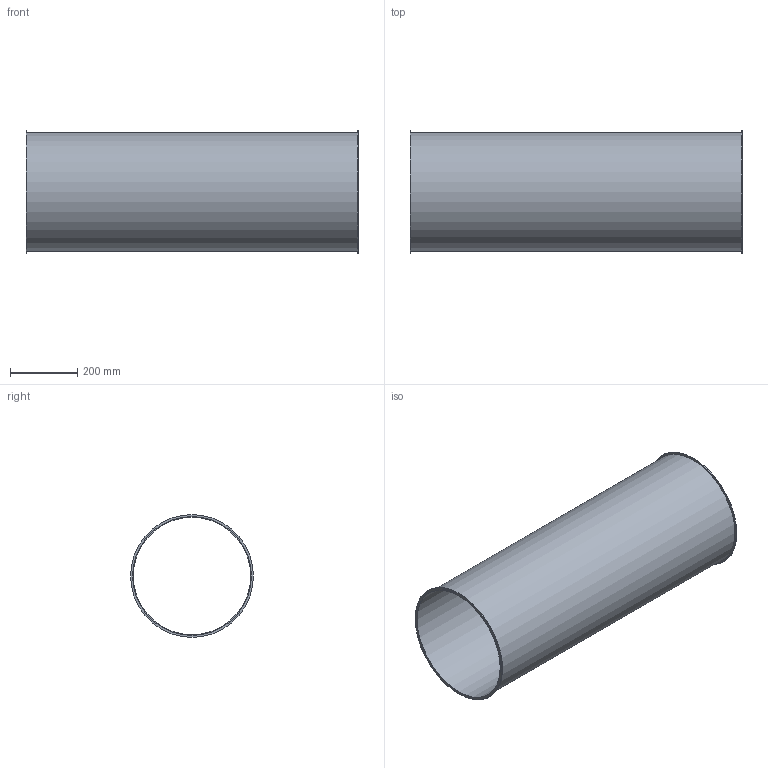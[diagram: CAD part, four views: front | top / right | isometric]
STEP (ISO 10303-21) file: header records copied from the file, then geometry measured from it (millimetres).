
FILE_DESCRIPTION((''),'2;1');
FILE_NAME('U:\Wolfgang\Marcel-3D\fertig\Kapitel 1\3521002.stp','2010-05-31T11:41:42',('TK2'),(''),'Autodesk Inventor 2010','Autodesk Inventor 2010','');
FILE_SCHEMA(('AUTOMOTIVE_DESIGN { 1 0 10303 214 1 1 1 1 }'));
Length unit declared in the file: millimetre
Products named in the file (1): 3521002
Bounding box: 986 x 365 x 365 mm (x, y, z)
Volume: 2201590.4 mm3; surface area: 2206152 mm2
Topology: 1 solids, 1 shells, 8 faces, 12 edges, 8 vertices
Faces by surface type: cylinder 4, plane 4
Full cylindrical faces by diameter (mm): 349 x1, 353 x1, 365 x2
Entity records: 194 total; most frequent: DIRECTION 34, CARTESIAN_POINT 25, AXIS2_PLACEMENT_3D 17, ORIENTED_EDGE 16, EDGE_LOOP 16, VERTEX_POINT 8, CIRCLE 8, EDGE_CURVE 8
